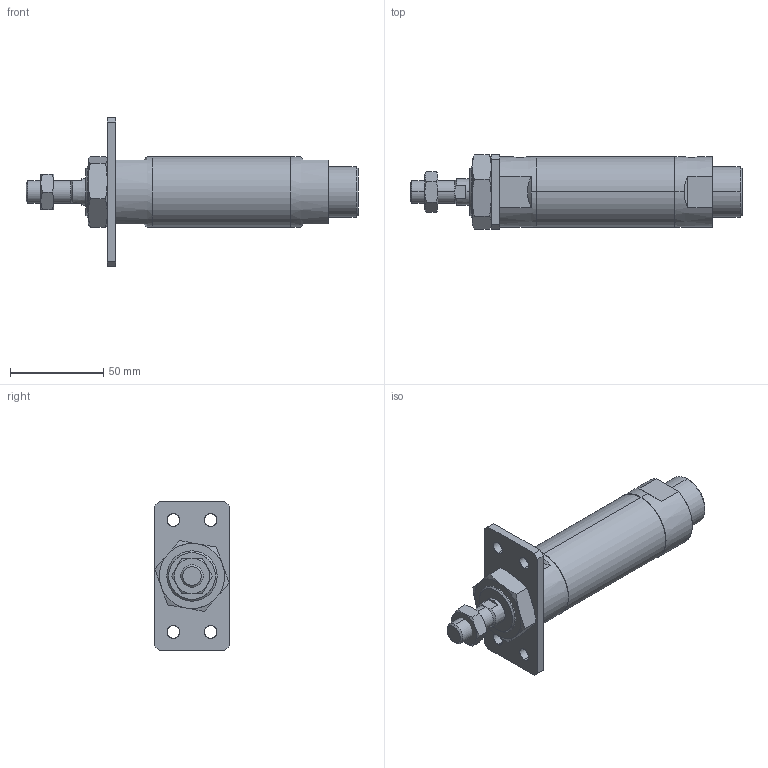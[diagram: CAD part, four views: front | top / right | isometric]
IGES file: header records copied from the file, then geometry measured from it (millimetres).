
Start section: SolidWorks IGES file using analytic representation for surfaces
Global section: file name: C:\Users\Toshiba\Desktop\J#2-32-25-A.IGS; native system: SolidWorks 2014; preprocessor: SolidWorks 2014; author: Toshiba; date: 160308.152917; units: millimetre
Bounding box: 178 x 40 x 80 mm (x, y, z)
Surface area: 31734.5 mm2 (no closed solid volume)
Topology: 0 solids, 0 shells, 114 faces, 2060 edges, 2056 vertices
Faces by surface type: bspline 67, revolution 47
